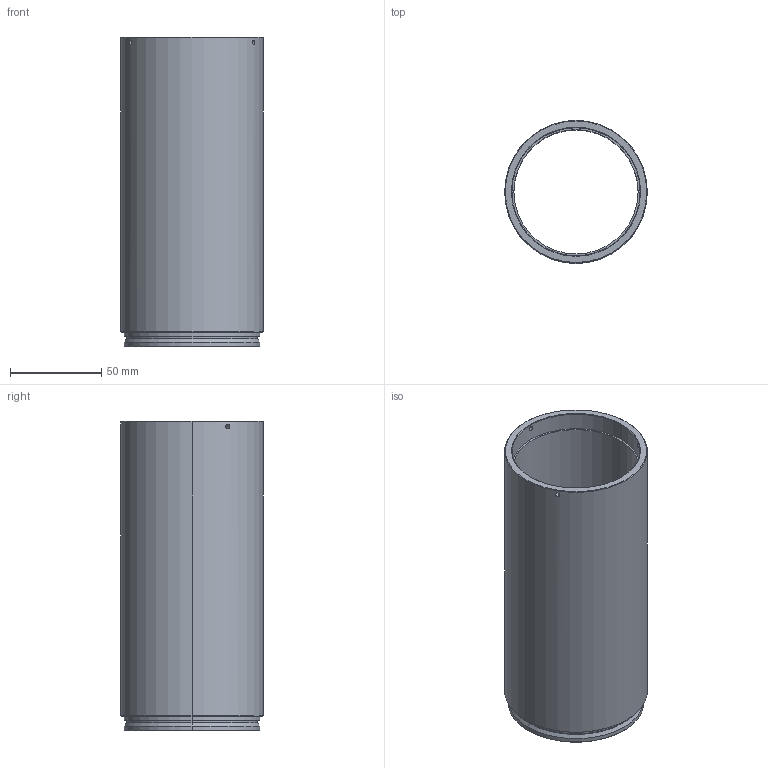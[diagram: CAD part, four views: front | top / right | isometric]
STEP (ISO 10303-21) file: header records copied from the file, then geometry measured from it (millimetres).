
FILE_DESCRIPTION (( 'STEP AP214' ), '1' );
FILE_NAME ('ML-11029-200-EXR-V70V74.STEP', '2026-02-27T02:46:24', ( '' ), ( '' ), 'SwSTEP 2.0', 'SolidWorks 2025', '' );
FILE_SCHEMA (( 'AUTOMOTIVE_DESIGN' ));
Length unit declared in the file: millimetre
Products named in the file (1): ML-11029-200-EXR-V70V74
Bounding box: 78 x 78 x 169.2 mm (x, y, z)
Volume: 187270.1 mm3; surface area: 80033.1 mm2
Topology: 1 solids, 1 shells, 35 faces, 76 edges, 46 vertices
Faces by surface type: cylinder 18, cone 12, plane 5
Entity records: 1195 total; most frequent: CARTESIAN_POINT 386, DIRECTION 170, ORIENTED_EDGE 152, EDGE_CURVE 76, AXIS2_PLACEMENT_3D 70, EDGE_LOOP 46, VERTEX_POINT 46, ADVANCED_FACE 35
